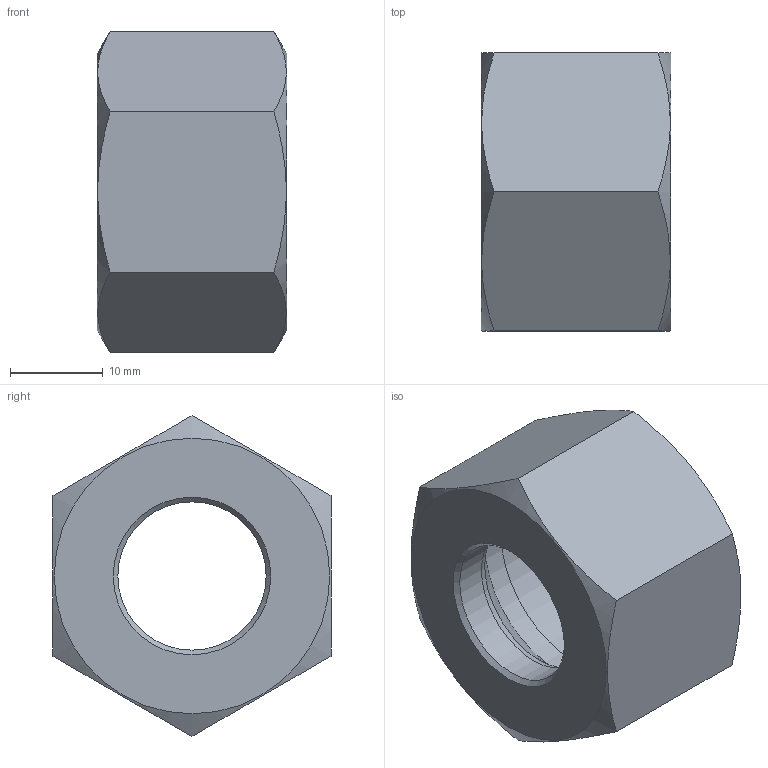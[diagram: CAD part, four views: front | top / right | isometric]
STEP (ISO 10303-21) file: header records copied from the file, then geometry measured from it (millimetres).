
FILE_DESCRIPTION( ( 'Unknown' ), '1' );
FILE_NAME( 'C:/Users/p.nanko/Desktop/3D SR/M16S.stp', 'Unknown', ( 'Peter Nanko' ), ( 'Armaturen Arndt' ), 'PSStep 14.0', 'Solid Edge ST4', ' ' );
FILE_SCHEMA( ( 'AUTOMOTIVE_DESIGN { 1 0 10303 214 1 1 1 1 }' ) );
Length unit declared in the file: millimetre
Products named in the file (1): 1
Bounding box: 20.5 x 30 x 34.64 mm (x, y, z)
Volume: 8978.5 mm3; surface area: 4374.5 mm2
Topology: 1 solids, 1 shells, 17 faces, 39 edges, 24 vertices
Faces by surface type: plane 8, cone 6, cylinder 3
Full cylindrical faces by diameter (mm): 16 x1, 22.376 x2
Entity records: 684 total; most frequent: CARTESIAN_POINT 208, DIRECTION 62, ORIENTED_EDGE 56, AXIS2_PLACEMENT_3D 28, EDGE_LOOP 28, EDGE_CURVE 28, VERTEX_POINT 22, FACE_OUTER_BOUND 20
